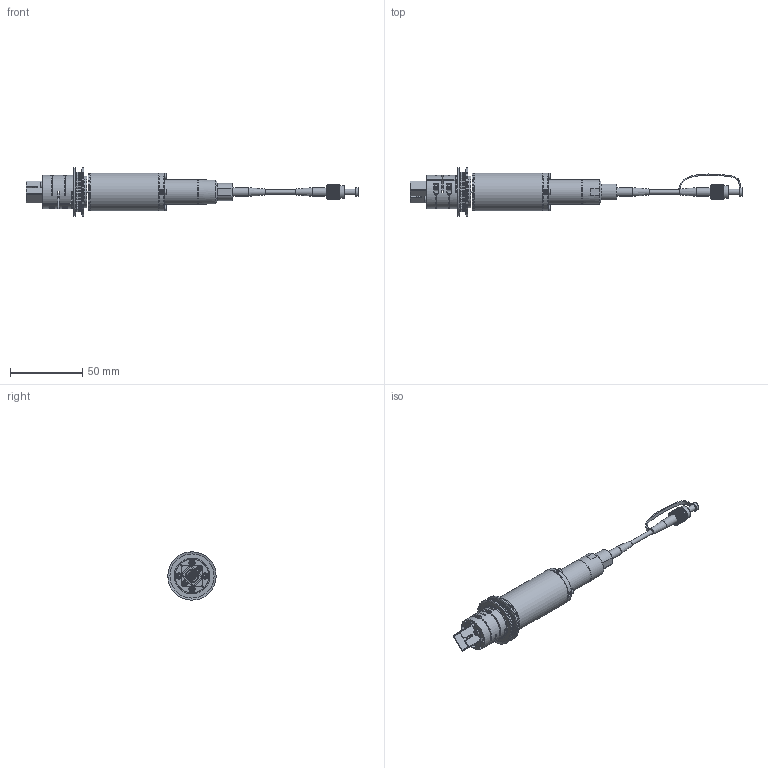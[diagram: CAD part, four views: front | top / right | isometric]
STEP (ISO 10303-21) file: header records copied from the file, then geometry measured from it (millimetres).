
FILE_DESCRIPTION (( 'STEP AP203' ), '1' );
FILE_NAME ('MJP-SAPB.STEP', '2024-02-16T15:17:58', ( '' ), ( '' ), 'SwSTEP 2.0', 'SolidWorks 2023', '' );
FILE_SCHEMA (( 'CONFIG_CONTROL_DESIGN' ));
Length unit declared in the file: millimetre
Products named in the file (1): MJP-SAPB
Bounding box: 229.43 x 33.4 x 33.4 mm (x, y, z)
Surface area: 20492.4 mm2 (no closed solid volume)
Topology: 0 solids, 61 shells, 881 faces, 2597 edges, 1716 vertices
Faces by surface type: cylinder 383, plane 296, cone 176, bspline 22, torus 4
Full cylindrical faces by diameter (mm): 1 x1, 1.6 x1, 2.75 x1, 3 x5, 3.25 x1, 3.5 x1, 3.8 x6, 4 x3, 4.2 x8, 4.65 x1, 5.8 x1, 6 x2, 7 x1, 8.2 x1, 8.5 x1, 8.763 x2, 17 x2, 22 x1, 24.8 x2, 26 x1, 33.4 x2
Entity records: 47121 total; most frequent: CARTESIAN_POINT 24352, DIRECTION 4982, ORIENTED_EDGE 4238, EDGE_CURVE 2465, AXIS2_PLACEMENT_3D 2005, VERTEX_POINT 1677, CIRCLE 1145, EDGE_LOOP 1061
